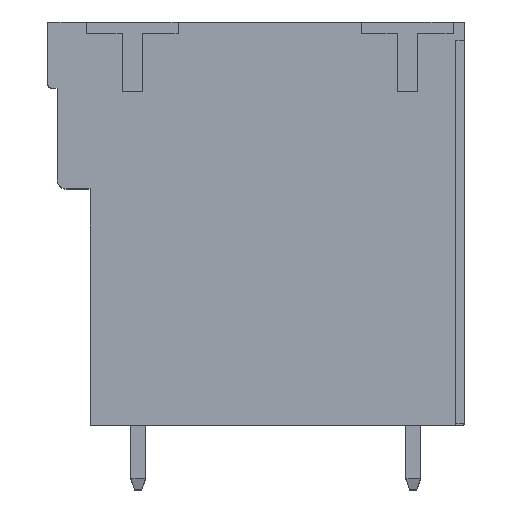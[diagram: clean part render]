
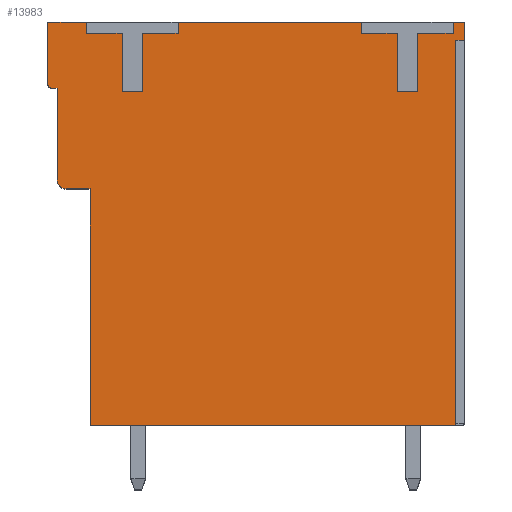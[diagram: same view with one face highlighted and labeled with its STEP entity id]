
A CAD part, top view. The second image highlights one B-rep face of the part: STEP entity #13983.
In plain terms, the highlighted planar face has unit normal (0, 0, 1).
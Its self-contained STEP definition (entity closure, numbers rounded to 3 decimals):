
#909=DIRECTION('',(0.,-1.,0.));
#910=VECTOR('',#909,1.);
#911=CARTESIAN_POINT('',(10.2,21.9,25.55));
#912=LINE('',#911,#910);
#929=DIRECTION('',(1.,0.,0.));
#930=VECTOR('',#929,0.6);
#931=CARTESIAN_POINT('',(9.6,21.9,25.55));
#932=LINE('',#931,#930);
#933=DIRECTION('',(1.,0.,0.));
#934=VECTOR('',#933,10.);
#935=CARTESIAN_POINT('',(-5.4,21.9,25.55));
#936=LINE('',#935,#934);
#941=DIRECTION('',(1.,0.,0.));
#942=VECTOR('',#941,2.1);
#943=CARTESIAN_POINT('',(-12.5,21.9,25.55));
#944=LINE('',#943,#942);
#1031=DIRECTION('',(0.,1.,0.));
#1032=VECTOR('',#1031,3.4);
#1033=CARTESIAN_POINT('',(-12.5,18.5,25.55));
#1034=LINE('',#1033,#1032);
#1047=DIRECTION('',(-1.,0.,0.));
#1048=VECTOR('',#1047,0.3);
#1049=CARTESIAN_POINT('',(-12.,18.3,25.55));
#1050=LINE('',#1049,#1048);
#1063=DIRECTION('',(0.,1.,0.));
#1064=VECTOR('',#1063,5.);
#1065=CARTESIAN_POINT('',(-12.,13.3,25.55));
#1066=LINE('',#1065,#1064);
#1083=DIRECTION('',(0.,1.,0.));
#1084=VECTOR('',#1083,12.9);
#1085=CARTESIAN_POINT('',(-10.2,-0.1,25.55));
#1086=LINE('',#1085,#1084);
#2139=DIRECTION('',(0.,-1.,0.));
#2140=VECTOR('',#2139,21.);
#2141=CARTESIAN_POINT('',(9.75,20.9,25.55));
#2142=LINE('',#2141,#2140);
#2151=DIRECTION('',(1.,0.,0.));
#2152=VECTOR('',#2151,19.95);
#2153=CARTESIAN_POINT('',(-10.2,-0.1,25.55));
#2154=LINE('',#2153,#2152);
#2155=DIRECTION('',(1.,0.,0.));
#2156=VECTOR('',#2155,1.3);
#2157=CARTESIAN_POINT('',(-11.5,12.8,25.55));
#2158=LINE('',#2157,#2156);
#2159=CARTESIAN_POINT('',(-11.5,13.3,25.55));
#2160=DIRECTION('',(0.,0.,1.));
#2161=DIRECTION('',(-1.,0.,0.));
#2162=AXIS2_PLACEMENT_3D('',#2159,#2160,#2161);
#2164=CARTESIAN_POINT('',(-12.3,18.5,25.55));
#2165=DIRECTION('',(0.,0.,1.));
#2166=DIRECTION('',(-1.,0.,0.));
#2167=AXIS2_PLACEMENT_3D('',#2164,#2165,#2166);
#2169=DIRECTION('',(0.,-1.,0.));
#2170=VECTOR('',#2169,0.6);
#2171=CARTESIAN_POINT('',(-10.4,21.9,25.55));
#2172=LINE('',#2171,#2170);
#2177=DIRECTION('',(1.,0.,0.));
#2178=VECTOR('',#2177,1.95);
#2179=CARTESIAN_POINT('',(-10.4,21.3,25.55));
#2180=LINE('',#2179,#2178);
#2189=DIRECTION('',(0.,-1.,0.));
#2190=VECTOR('',#2189,3.2);
#2191=CARTESIAN_POINT('',(-8.45,21.3,25.55));
#2192=LINE('',#2191,#2190);
#2197=DIRECTION('',(1.,0.,0.));
#2198=VECTOR('',#2197,1.1);
#2199=CARTESIAN_POINT('',(-8.45,18.1,25.55));
#2200=LINE('',#2199,#2198);
#2205=DIRECTION('',(0.,1.,0.));
#2206=VECTOR('',#2205,3.2);
#2207=CARTESIAN_POINT('',(-7.35,18.1,25.55));
#2208=LINE('',#2207,#2206);
#2213=DIRECTION('',(1.,0.,0.));
#2214=VECTOR('',#2213,1.95);
#2215=CARTESIAN_POINT('',(-7.35,21.3,25.55));
#2216=LINE('',#2215,#2214);
#2221=DIRECTION('',(0.,1.,0.));
#2222=VECTOR('',#2221,0.6);
#2223=CARTESIAN_POINT('',(-5.4,21.3,25.55));
#2224=LINE('',#2223,#2222);
#2261=DIRECTION('',(0.,-1.,0.));
#2262=VECTOR('',#2261,0.6);
#2263=CARTESIAN_POINT('',(4.6,21.9,25.55));
#2264=LINE('',#2263,#2262);
#2273=DIRECTION('',(1.,0.,0.));
#2274=VECTOR('',#2273,1.95);
#2275=CARTESIAN_POINT('',(4.6,21.3,25.55));
#2276=LINE('',#2275,#2274);
#2281=DIRECTION('',(0.,-1.,0.));
#2282=VECTOR('',#2281,3.2);
#2283=CARTESIAN_POINT('',(6.55,21.3,25.55));
#2284=LINE('',#2283,#2282);
#2289=DIRECTION('',(1.,0.,0.));
#2290=VECTOR('',#2289,1.1);
#2291=CARTESIAN_POINT('',(6.55,18.1,25.55));
#2292=LINE('',#2291,#2290);
#2297=DIRECTION('',(0.,1.,0.));
#2298=VECTOR('',#2297,3.2);
#2299=CARTESIAN_POINT('',(7.65,18.1,25.55));
#2300=LINE('',#2299,#2298);
#2305=DIRECTION('',(1.,0.,0.));
#2306=VECTOR('',#2305,1.95);
#2307=CARTESIAN_POINT('',(7.65,21.3,25.55));
#2308=LINE('',#2307,#2306);
#2313=DIRECTION('',(0.,1.,0.));
#2314=VECTOR('',#2313,0.6);
#2315=CARTESIAN_POINT('',(9.6,21.3,25.55));
#2316=LINE('',#2315,#2314);
#2353=DIRECTION('',(-1.,0.,0.));
#2354=VECTOR('',#2353,0.45);
#2355=CARTESIAN_POINT('',(10.2,20.9,25.55));
#2356=LINE('',#2355,#2354);
#8083=CARTESIAN_POINT('',(-11.5,12.8,25.55));
#8084=CARTESIAN_POINT('',(-10.2,12.8,25.55));
#8085=VERTEX_POINT('',#8083);
#8086=VERTEX_POINT('',#8084);
#8145=CARTESIAN_POINT('',(-10.2,-0.1,25.55));
#8146=CARTESIAN_POINT('',(9.75,-0.1,25.55));
#8147=VERTEX_POINT('',#8145);
#8148=VERTEX_POINT('',#8146);
#8151=CARTESIAN_POINT('',(-10.4,21.9,25.55));
#8152=CARTESIAN_POINT('',(-10.4,21.3,25.55));
#8153=VERTEX_POINT('',#8151);
#8154=VERTEX_POINT('',#8152);
#8155=CARTESIAN_POINT('',(-8.45,21.3,25.55));
#8156=VERTEX_POINT('',#8155);
#8157=CARTESIAN_POINT('',(-8.45,18.1,25.55));
#8158=VERTEX_POINT('',#8157);
#8159=CARTESIAN_POINT('',(-7.35,18.1,25.55));
#8160=VERTEX_POINT('',#8159);
#8161=CARTESIAN_POINT('',(-7.35,21.3,25.55));
#8162=VERTEX_POINT('',#8161);
#8163=CARTESIAN_POINT('',(-5.4,21.3,25.55));
#8164=VERTEX_POINT('',#8163);
#8165=CARTESIAN_POINT('',(-5.4,21.9,25.55));
#8166=VERTEX_POINT('',#8165);
#8167=CARTESIAN_POINT('',(4.6,21.9,25.55));
#8168=VERTEX_POINT('',#8167);
#8169=CARTESIAN_POINT('',(4.6,21.3,25.55));
#8170=VERTEX_POINT('',#8169);
#8171=CARTESIAN_POINT('',(6.55,21.3,25.55));
#8172=VERTEX_POINT('',#8171);
#8173=CARTESIAN_POINT('',(6.55,18.1,25.55));
#8174=VERTEX_POINT('',#8173);
#8175=CARTESIAN_POINT('',(7.65,18.1,25.55));
#8176=VERTEX_POINT('',#8175);
#8177=CARTESIAN_POINT('',(7.65,21.3,25.55));
#8178=VERTEX_POINT('',#8177);
#8179=CARTESIAN_POINT('',(9.6,21.3,25.55));
#8180=VERTEX_POINT('',#8179);
#8181=CARTESIAN_POINT('',(9.6,21.9,25.55));
#8182=VERTEX_POINT('',#8181);
#8183=CARTESIAN_POINT('',(10.2,21.9,25.55));
#8184=VERTEX_POINT('',#8183);
#8185=CARTESIAN_POINT('',(10.2,20.9,25.55));
#8186=VERTEX_POINT('',#8185);
#8187=CARTESIAN_POINT('',(9.75,20.9,25.55));
#8188=VERTEX_POINT('',#8187);
#8189=CARTESIAN_POINT('',(-12.,13.3,25.55));
#8190=VERTEX_POINT('',#8189);
#8191=CARTESIAN_POINT('',(-12.,18.3,25.55));
#8192=VERTEX_POINT('',#8191);
#8193=CARTESIAN_POINT('',(-12.3,18.3,25.55));
#8194=VERTEX_POINT('',#8193);
#8195=CARTESIAN_POINT('',(-12.5,18.5,25.55));
#8196=VERTEX_POINT('',#8195);
#8197=CARTESIAN_POINT('',(-12.5,21.9,25.55));
#8198=VERTEX_POINT('',#8197);
#13933=CARTESIAN_POINT('',(0.,0.,25.55));
#13934=DIRECTION('',(0.,0.,1.));
#13935=DIRECTION('',(1.,0.,0.));
#13936=AXIS2_PLACEMENT_3D('',#13933,#13934,#13935);
#13937=PLANE('',#13936);
#13938=ORIENTED_EDGE('',*,*,#12071,.T.);
#13940=ORIENTED_EDGE('',*,*,#13939,.T.);
#13942=ORIENTED_EDGE('',*,*,#13941,.T.);
#13944=ORIENTED_EDGE('',*,*,#13943,.T.);
#13946=ORIENTED_EDGE('',*,*,#13945,.T.);
#13948=ORIENTED_EDGE('',*,*,#13947,.T.);
#13950=ORIENTED_EDGE('',*,*,#13949,.T.);
#13952=ORIENTED_EDGE('',*,*,#13951,.T.);
#13953=ORIENTED_EDGE('',*,*,#12063,.T.);
#13955=ORIENTED_EDGE('',*,*,#13954,.T.);
#13957=ORIENTED_EDGE('',*,*,#13956,.T.);
#13959=ORIENTED_EDGE('',*,*,#13958,.T.);
#13961=ORIENTED_EDGE('',*,*,#13960,.T.);
#13963=ORIENTED_EDGE('',*,*,#13962,.T.);
#13965=ORIENTED_EDGE('',*,*,#13964,.T.);
#13967=ORIENTED_EDGE('',*,*,#13966,.T.);
#13968=ORIENTED_EDGE('',*,*,#12055,.T.);
#13969=ORIENTED_EDGE('',*,*,#12024,.T.);
#13971=ORIENTED_EDGE('',*,*,#13970,.T.);
#13972=ORIENTED_EDGE('',*,*,#13923,.T.);
#13973=ORIENTED_EDGE('',*,*,#12393,.F.);
#13974=ORIENTED_EDGE('',*,*,#12374,.T.);
#13975=ORIENTED_EDGE('',*,*,#12359,.F.);
#13976=ORIENTED_EDGE('',*,*,#12344,.F.);
#13977=ORIENTED_EDGE('',*,*,#12329,.T.);
#13978=ORIENTED_EDGE('',*,*,#12314,.T.);
#13979=ORIENTED_EDGE('',*,*,#12299,.F.);
#13980=ORIENTED_EDGE('',*,*,#12284,.T.);
#13981=EDGE_LOOP('',(#13938,#13940,#13942,#13944,#13946,#13948,#13950,#13952,
#13953,#13955,#13957,#13959,#13961,#13963,#13965,#13967,#13968,#13969,#13971,
#13972,#13973,#13974,#13975,#13976,#13977,#13978,#13979,#13980));
#13982=FACE_OUTER_BOUND('',#13981,.F.);
#13983=ADVANCED_FACE('',(#13982),#13937,.T.);
#2163=CIRCLE('',#2162,0.5);
#2168=CIRCLE('',#2167,0.2);
#12024=EDGE_CURVE('',#8184,#8186,#912,.T.);
#12055=EDGE_CURVE('',#8182,#8184,#932,.T.);
#12063=EDGE_CURVE('',#8166,#8168,#936,.T.);
#12071=EDGE_CURVE('',#8198,#8153,#944,.T.);
#12284=EDGE_CURVE('',#8196,#8198,#1034,.T.);
#12299=EDGE_CURVE('',#8196,#8194,#2168,.T.);
#12314=EDGE_CURVE('',#8192,#8194,#1050,.T.);
#12329=EDGE_CURVE('',#8190,#8192,#1066,.T.);
#12344=EDGE_CURVE('',#8190,#8085,#2163,.T.);
#12359=EDGE_CURVE('',#8085,#8086,#2158,.T.);
#12374=EDGE_CURVE('',#8147,#8086,#1086,.T.);
#12393=EDGE_CURVE('',#8147,#8148,#2154,.T.);
#13923=EDGE_CURVE('',#8188,#8148,#2142,.T.);
#13939=EDGE_CURVE('',#8153,#8154,#2172,.T.);
#13941=EDGE_CURVE('',#8154,#8156,#2180,.T.);
#13943=EDGE_CURVE('',#8156,#8158,#2192,.T.);
#13945=EDGE_CURVE('',#8158,#8160,#2200,.T.);
#13947=EDGE_CURVE('',#8160,#8162,#2208,.T.);
#13949=EDGE_CURVE('',#8162,#8164,#2216,.T.);
#13951=EDGE_CURVE('',#8164,#8166,#2224,.T.);
#13954=EDGE_CURVE('',#8168,#8170,#2264,.T.);
#13956=EDGE_CURVE('',#8170,#8172,#2276,.T.);
#13958=EDGE_CURVE('',#8172,#8174,#2284,.T.);
#13960=EDGE_CURVE('',#8174,#8176,#2292,.T.);
#13962=EDGE_CURVE('',#8176,#8178,#2300,.T.);
#13964=EDGE_CURVE('',#8178,#8180,#2308,.T.);
#13966=EDGE_CURVE('',#8180,#8182,#2316,.T.);
#13970=EDGE_CURVE('',#8186,#8188,#2356,.T.);
